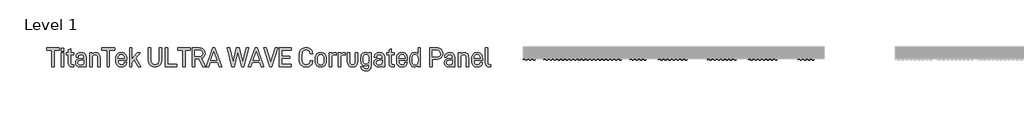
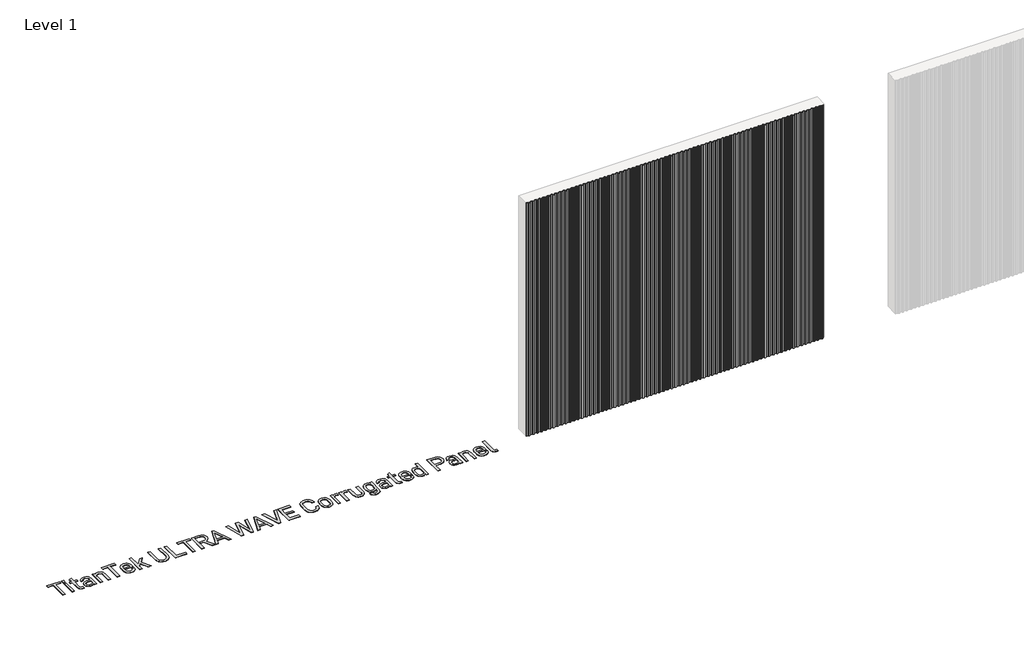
# One storey, part 29 of 33: 2 proxies.
"""IFC4 building model written with IfcOpenShell, lengths in millimetres."""

from ifc_helpers import new_model, si_unit, origin, origin_with_axes, place, context, project, spatial, polyline, outline, extrude, transform, mapped, element, save
from components import titantek_ultra_wave_corrugated_panel_aluminum_slate_gray_bfc90fa9, titantek_ultra_wave_corrugated_panel_aluminum_slate_gray_77245a93, titantek_ultra_wave_corrugated_panel_aluminum_slate_gray_d8f012a7

model = new_model("IFC4")

# Units and contexts
model_context = context("Model", 3, world=origin())
ifc_project = project(units=[si_unit("LENGTHUNIT", "METRE", prefix="MILLI")], contexts=[model_context])

# Site, building, storey
site = spatial("IfcSite", under=ifc_project)
building = spatial("IfcBuilding", under=site)
storey = spatial("IfcBuildingStorey", under=building, Name="Level 1", Elevation=0.0)

# Proxies
placement = place(None, origin())
element("IfcBuildingElementProxy", 1, Name="600mm Arial 2", ObjectType="600mm Arial 2", at=placement, inside=storey, context=model_context, shape_type="SweptSolid", body=[
    extrude(outline(polyline([(-9914.9924556, 112220.4128343), (-9914.9924556, 111952.9873502), (-9954.4439015, 111952.9873502), (-9954.4439015, 112220.4128343), (-10038.8787304, 112220.4128343), (-10038.8787304, 112257.3166776), (-9830.5576267, 112257.3166776), (-9830.5576267, 112220.4128343), (-9914.9924556, 112220.4128343)])), origin_with_axes(), (0.0, 0.0, 1.0), 5.0),
    extrude(outline(polyline([(-9763.1553408, 112253.0221475), (-9763.1553408, 112205.8551051), (-9802.6067867, 112205.8551051), (-9802.6067867, 112253.0221475), (-9763.1553408, 112253.0221475)])), origin_with_axes(), (0.0, 0.0, 1.0), 5.0),
    extrude(outline(polyline([(-9764.0288046, 112178.8505176), (-9764.0288046, 111952.9873502), (-9801.733323, 111952.9873502), (-9801.733323, 112178.8505176), (-9764.0288046, 112178.8505176)])), origin_with_axes(), (0.0, 0.0, 1.0), 5.0),
    extrude(outline(polyline([(-9648.294858, 112012.601251), (-9646.8208879, 112001.5191797), (-9642.3989777, 111993.6034145), (-9635.0291273, 111988.8539554), (-9624.7113368, 111987.2708023), (-9603.2386864, 111987.2708023), (-9603.2386864, 111952.9873502), (-9629.3698101, 111952.9873502), (-9653.1535001, 111956.9543314), (-9671.3688587, 111968.855275), (-9682.6692959, 111987.3981825), (-9686.4361083, 112011.2910554), (-9686.4361083, 112147.1146681), (-9720.2828285, 112147.1146681), (-9720.2828285, 112178.8505176), (-9686.4361083, 112178.8505176), (-9686.4361083, 112226.8910237), (-9648.294858, 112244.8698192), (-9648.294858, 112178.8505176), (-9599.3808881, 112178.8505176), (-9599.3808881, 112147.1146681), (-9648.294858, 112147.1146681), (-9648.294858, 112012.601251)])), origin_with_axes(), (0.0, 0.0, 1.0), 5.0),
    extrude(outline(polyline([(-9422.8684225, 112162.1091291), (-9413.2830677, 112151.3409589), (-9406.4363858, 112138.2526505), (-9400.9590402, 112105.1156196), (-9400.9590402, 111952.9873502), (-9438.2996154, 111952.9873502), (-9438.2996154, 111969.2920069), (-9456.7151427, 111956.8451485), (-9473.7476858, 111952.0410978), (-9493.9829293, 111950.4397476), (-9526.0281305, 111954.7160806), (-9550.1029751, 111967.5450794), (-9565.2248162, 111989.3270816), (-9570.2654299, 112018.5699199), (-9565.1338304, 112046.2114081), (-9549.7390318, 112067.4111012), (-9525.063681, 112080.6222403), (-9493.1094655, 112085.0259534), (-9438.7363472, 112085.0259534), (-9438.7363472, 112105.5523515), (-9441.6296959, 112124.441005), (-9450.3097419, 112138.1616647), (-9464.2305704, 112146.1866129), (-9483.7197302, 112148.8615956), (-9502.2262434, 112146.6051476), (-9515.819523, 112139.8358036), (-9524.1720201, 112129.4816187), (-9526.9561857, 112115.4516073), (-9526.9561857, 112109.8468816), (-9563.8600291, 112109.8468816), (-9563.8600291, 112116.2522824), (-9558.4008807, 112143.2932642), (-9542.0234354, 112164.2927885), (-9516.8203668, 112177.4493362), (-9484.1564621, 112181.8348521), (-9448.6719974, 112176.9034213), (-9434.5600987, 112170.7391329), (-9422.8684225, 112162.1091291)]), holes=[polyline([(-9450.6736851, 111994.5496669), (-9441.7206817, 112009.4531421), (-9438.7363472, 112031.0167784), (-9438.7363472, 112054.9642428), (-9488.8149354, 112054.9642428), (-9507.9538, 112052.7168933), (-9521.6244175, 112045.974845), (-9529.826788, 112034.7380979), (-9532.5609115, 112019.0066518), (-9529.8540837, 112003.0522906), (-9521.7336004, 111991.6563182), (-9508.1994616, 111984.8187348), (-9489.2516673, 111982.5395404), (-9466.104878, 111985.542072), (-9450.6736851, 111994.5496669)])]), origin_with_axes(), (0.0, 0.0, 1.0), 5.0),
    extrude(outline(polyline([(-9306.6977441, 112178.8505176), (-9306.6977441, 112160.4349903), (-9288.2822167, 112173.6825238), (-9271.1222935, 112179.4692211), (-9252.2518372, 112181.3981202), (-9219.9154813, 112175.9389718), (-9206.7907787, 112169.1150363), (-9195.6950595, 112159.5615265), (-9187.0650557, 112147.9790333), (-9180.9007673, 112134.1946835), (-9175.9693365, 112100.0204144), (-9175.9693365, 111952.9873502), (-9213.673855, 111952.9873502), (-9213.673855, 112095.7258843), (-9216.6763866, 112118.1083928), (-9225.6839815, 112133.8671346), (-9240.3781893, 112143.4752358), (-9259.567096, 112146.6779363), (-9278.7378056, 112143.4752358), (-9293.3774219, 112133.8671346), (-9303.0401146, 112117.453295), (-9306.2610122, 112095.7258843), (-9306.2610122, 111952.9873502), (-9343.9655306, 111952.9873502), (-9343.9655306, 112178.8505176), (-9306.6977441, 112178.8505176)])), origin_with_axes(), (0.0, 0.0, 1.0), 5.0),
    extrude(outline(polyline([(-9025.2240514, 112220.4128343), (-9025.2240514, 111952.9873502), (-9064.6754974, 111952.9873502), (-9064.6754974, 112220.4128343), (-9149.1103263, 112220.4128343), (-9149.1103263, 112257.3166776), (-8940.7892225, 112257.3166776), (-8940.7892225, 112220.4128343), (-9025.2240514, 112220.4128343)])), origin_with_axes(), (0.0, 0.0, 1.0), 5.0),
    extrude(outline(polyline([(-8884.5235994, 112047.2486463), (-8881.1025331, 112017.8329349), (-8870.8393341, 111998.8805913), (-8854.3527058, 111988.5900965), (-8832.2613519, 111985.1599316), (-8812.990558, 111987.7257314), (-8798.8513635, 111995.4231306), (-8790.1713175, 112007.1966941), (-8787.2779689, 112022.86445), (-8787.2779689, 112028.3963871), (-8750.3741256, 112028.3963871), (-8750.3741256, 112021.9909863), (-8756.0516399, 111992.8391337), (-8763.1485329, 111980.528754), (-8773.084183, 111969.7287387), (-8799.7976159, 111955.2619954), (-8834.3722226, 111950.4397476), (-8853.3222916, 111951.9387388), (-8870.2843206, 111956.4357123), (-8885.2583098, 111963.9306682), (-8898.2442591, 111974.4236064), (-8908.7371973, 111988.0237099), (-8916.2321532, 112004.8401617), (-8920.7291267, 112024.8729617), (-8922.2281179, 112048.1221101), (-8922.2281179, 112085.8266285), (-8920.7314014, 112108.5321367), (-8916.2412518, 112128.1714231), (-8908.7576691, 112144.7444879), (-8898.2806535, 112158.2513309), (-8885.4971476, 112168.5691214), (-8870.7301511, 112175.9389718), (-8853.979664, 112180.360882), (-8835.2456864, 112181.8348521), (-8816.8438069, 112180.360882), (-8800.2161506, 112175.9389718), (-8785.3627176, 112168.5691214), (-8772.2835079, 112158.2513309), (-8761.9657174, 112144.9082623), (-8754.595867, 112128.389789), (-8750.1739568, 112108.6959111), (-8748.6999867, 112085.8266285), (-8748.6999867, 112055.8377065), (-8884.5235994, 112055.8377065), (-8884.5235994, 112047.2486463)]), holes=[polyline([(-8871.2760659, 112133.4304027), (-8881.2117161, 112115.30603), (-8884.5235994, 112086.7000923), (-8786.4045051, 112086.2633604), (-8786.4045051, 112089.6844267), (-8789.6254027, 112116.9255774), (-8799.2880954, 112134.3038665), (-8814.9012599, 112143.5844188), (-8835.2456864, 112146.6779363), (-8855.60831, 112143.3660529), (-8871.2760659, 112133.4304027)])]), origin_with_axes(), (0.0, 0.0, 1.0), 5.0),
    extrude(outline(polyline([(-8663.391694, 112020.3168474), (-8663.391694, 111952.9873502), (-8701.0962125, 111952.9873502), (-8701.0962125, 112257.3166776), (-8663.391694, 112257.3166776), (-8663.391694, 112070.8321675), (-8575.0990669, 112178.8505176), (-8528.3687564, 112178.8505176), (-8602.5403863, 112091.8680861), (-8517.6688255, 111952.9873502), (-8563.5256722, 111952.9873502), (-8627.7980463, 112062.6798392), (-8663.391694, 112020.3168474)])), origin_with_axes(), (0.0, 0.0, 1.0), 5.0),
    extrude(outline(polyline([(-8344.2862716, 111963.2505493), (-8365.6133448, 111978.6999393), (-8382.4275219, 112000.1543926), (-8392.7453124, 112025.5576299), (-8396.1845759, 112053.7268358), (-8396.1845759, 112257.3166776), (-8355.8596662, 112257.3166776), (-8355.8596662, 112056.2744384), (-8351.3649674, 112027.4683319), (-8337.8808708, 112005.2495978), (-8317.3362756, 111991.4379523), (-8289.9131533, 111986.8340705), (-8262.8721715, 111991.4379523), (-8241.8726472, 112005.2495978), (-8228.3885506, 112027.6503035), (-8223.8938517, 112056.2744384), (-8223.8938517, 112257.3166776), (-8184.0056739, 112257.3166776), (-8184.0056739, 112053.7268358), (-8187.4449374, 112025.230081), (-8197.7627279, 111999.7176607), (-8214.0309902, 111978.8091223), (-8235.4672464, 111963.2505493), (-8261.2617227, 111953.642448), (-8289.876759, 111950.4397476), (-8318.4917953, 111953.642448), (-8344.2862716, 111963.2505493)])), origin_with_axes(), (0.0, 0.0, 1.0), 5.0),
    extrude(outline(polyline([(-8086.1049456, 112257.3166776), (-8086.1049456, 111989.8184049), (-7938.7079382, 111989.8184049), (-7938.7079382, 111952.9873502), (-8125.9931234, 111952.9873502), (-8125.9931234, 112257.3166776), (-8086.1049456, 112257.3166776)])), origin_with_axes(), (0.0, 0.0, 1.0), 5.0),
    extrude(outline(polyline([(-7804.7040416, 112220.4128343), (-7804.7040416, 111952.9873502), (-7844.1554875, 111952.9873502), (-7844.1554875, 112220.4128343), (-7928.5903164, 112220.4128343), (-7928.5903164, 112257.3166776), (-7720.2692126, 112257.3166776), (-7720.2692126, 112220.4128343), (-7804.7040416, 112220.4128343)])), origin_with_axes(), (0.0, 0.0, 1.0), 5.0),
    extrude(outline(polyline([(-7652.8669268, 112082.842294), (-7652.8669268, 111952.9873502), (-7692.7551046, 111952.9873502), (-7692.7551046, 112257.3166776), (-7578.7680855, 112257.3166776), (-7540.2810892, 112251.6391632), (-7524.3267279, 112244.5422703), (-7510.5651246, 112234.6066202), (-7499.5148983, 112221.8777058), (-7491.6218796, 112206.8377519), (-7486.8860683, 112189.4867585), (-7485.3074645, 112169.8247256), (-7489.6929804, 112139.8540007), (-7502.8495281, 112115.0148754), (-7521.9383505, 112097.9641352), (-7546.5955042, 112087.1368241), (-7475.9177293, 111952.9873502), (-7521.774576, 111952.9873502), (-7588.5945527, 112082.842294), (-7652.8669268, 112082.842294)]), holes=[polyline([(-7581.3156881, 112118.4359417), (-7556.9860833, 112121.7478251), (-7539.7533715, 112131.6834753), (-7528.8350746, 112147.5695972), (-7525.1956423, 112169.4607823), (-7528.7258917, 112191.6158263), (-7539.3166396, 112207.5656383), (-7556.8769004, 112217.2010353), (-7581.3156881, 112220.4128343), (-7652.8669268, 112220.4128343), (-7652.8669268, 112118.4359417), (-7581.3156881, 112118.4359417)])]), origin_with_axes(), (0.0, 0.0, 1.0), 5.0),
    extrude(outline(polyline([(-7402.6923518, 112024.1746457), (-7427.5132799, 111952.9873502), (-7469.5123284, 111952.9873502), (-7358.9463757, 112257.3166776), (-7326.846583, 112257.3166776), (-7216.2078417, 111952.9873502), (-7258.2068902, 111952.9873502), (-7283.100607, 112024.1746457), (-7402.6923518, 112024.1746457)]), holes=[polyline([(-7343.078451, 112196.4653699), (-7390.6822252, 112059.2587729), (-7295.1107335, 112059.2587729), (-7343.078451, 112196.4653699)])]), origin_with_axes(), (0.0, 0.0, 1.0), 5.0),
    extrude(outline(polyline([(-6353.8807569, 112257.3166776), (-6312.3184403, 112257.3166776), (-6411.7477302, 111952.9873502), (-6443.4835797, 111952.9873502), (-6542.4761377, 112257.3166776), (-6500.9138211, 112257.3166776), (-6427.1789231, 112022.86445), (-6353.8807569, 112257.3166776)])), origin_with_axes(), (0.0, 0.0, 1.0), 5.0),
    extrude(outline(polyline([(-6722.555247, 112024.1746457), (-6747.3761752, 111952.9873502), (-6789.3752237, 111952.9873502), (-6678.809271, 112257.3166776), (-6646.7094783, 112257.3166776), (-6536.0707369, 111952.9873502), (-6578.0697854, 111952.9873502), (-6602.9635022, 112024.1746457), (-6722.555247, 112024.1746457)]), holes=[polyline([(-6662.9413462, 112196.4653699), (-6710.5451205, 112059.2587729), (-6614.9736288, 112059.2587729), (-6662.9413462, 112196.4653699)])]), origin_with_axes(), (0.0, 0.0, 1.0), 5.0),
    extrude(outline(polyline([(-6820.8927073, 112257.3166776), (-6782.7514569, 112257.3166776), (-6859.0339576, 111952.9873502), (-6893.7541415, 111952.9873502), (-6955.9156449, 112196.028638), (-7016.3302208, 111952.9873502), (-7051.0504047, 111952.9873502), (-7129.0070442, 112257.3166776), (-7089.6283869, 112257.3166776), (-7032.9988206, 112026.7222483), (-6978.6257023, 112257.3166776), (-6931.8953918, 112257.3166776), (-6875.3386142, 112026.7222483), (-6820.8927073, 112257.3166776)])), origin_with_axes(), (0.0, 0.0, 1.0), 5.0),
    extrude(outline(polyline([(-6246.0079841, 112126.1515382), (-6119.1373748, 112126.1515382), (-6119.1373748, 112089.3204835), (-6246.0079841, 112089.3204835), (-6246.0079841, 111989.8184049), (-6097.7375129, 111989.8184049), (-6097.7375129, 111952.9873502), (-6285.8961619, 111952.9873502), (-6285.8961619, 112257.3166776), (-6097.7375129, 112257.3166776), (-6097.7375129, 112220.4128343), (-6246.0079841, 112220.4128343), (-6246.0079841, 112126.1515382)])), origin_with_axes(), (0.0, 0.0, 1.0), 5.0),
    extrude(outline(polyline([(-5936.2195083, 111977.881067), (-5949.1485915, 111994.3676953), (-5958.3836509, 112014.7121217), (-5963.9246865, 112038.9143464), (-5965.7716984, 112066.9743693), (-5965.7716984, 112143.6936018), (-5963.9246865, 112171.9219484), (-5958.3836509, 112196.1924124), (-5949.1485915, 112216.5049939), (-5936.2195083, 112232.8596927), (-5920.2105556, 112245.2474103), (-5901.7358874, 112254.09578), (-5880.7955039, 112259.4048019), (-5857.3894051, 112261.1744758), (-5828.0191866, 112258.2811272), (-5802.5067663, 112249.6010812), (-5781.3980591, 112235.4436896), (-5765.2389797, 112216.1183042), (-5755.576287, 112192.7713461), (-5752.3553894, 112166.4036592), (-5752.3553894, 112160.8717222), (-5792.2435672, 112160.8717222), (-5792.2435672, 112166.4036592), (-5796.5199002, 112190.2965321), (-5809.348899, 112208.8394396), (-5830.1664516, 112220.4128343), (-5857.3894051, 112224.2706325), (-5886.8415108, 112219.5575677), (-5908.3778513, 112205.4183733), (-5916.0684267, 112194.4136399), (-5921.5616948, 112180.251699), (-5925.9563093, 112142.4561948), (-5925.9563093, 112065.3002304), (-5921.643582, 112030.9712854), (-5908.7054003, 112006.4506105), (-5899.0017639, 111997.8683742), (-5887.141764, 111991.7382055), (-5856.9526732, 111986.8340705), (-5829.6205368, 111990.6918687), (-5809.348899, 112002.2652633), (-5796.5199002, 112020.4806219), (-5792.2435672, 112044.2643119), (-5792.2435672, 112050.3057694), (-5753.2288532, 112050.3057694), (-5753.2288532, 112044.2643119), (-5754.9939779, 112023.4103649), (-5760.2893518, 112004.9584432), (-5769.1149751, 111988.9085469), (-5781.4708477, 111975.2606758), (-5796.8338012, 111964.0193793), (-5814.6078786, 111955.9898819), (-5834.7930799, 111951.1721834), (-5857.3894051, 111949.5662839), (-5880.7955039, 111951.3359578), (-5901.7358874, 111956.6449797), (-5920.2105556, 111965.4933494), (-5936.2195083, 111977.881067)])), origin_with_axes(), (0.0, 0.0, 1.0), 5.0),
    extrude(outline(polyline([(-5683.9340626, 111972.7130732), (-5694.4110782, 111985.6740014), (-5701.8946609, 112001.8467286), (-5706.3848104, 112021.2312548), (-5707.881527, 112043.82758), (-5707.881527, 112088.4470198), (-5706.3825358, 112110.8522747), (-5701.8855623, 112130.1003222), (-5694.3906064, 112146.1911622), (-5683.8976682, 112159.1247947), (-5670.9117189, 112169.0604448), (-5655.9377297, 112176.1573377), (-5620.0256317, 112181.8348521), (-5585.1416733, 112176.1573377), (-5570.4156204, 112169.0604448), (-5557.5001851, 112159.1247947), (-5546.9913244, 112146.3549366), (-5539.4849953, 112130.3186881), (-5534.9811979, 112111.0160492), (-5533.479932, 112088.4470198), (-5533.479932, 112043.82758), (-5534.9811979, 112021.2585505), (-5539.4849953, 112001.9559116), (-5546.9913244, 111985.9196631), (-5557.5001851, 111973.1498051), (-5570.4156204, 111963.2141549), (-5585.1416733, 111956.117262), (-5620.0256317, 111950.4397476), (-5656.1651942, 111956.008079), (-5671.0959652, 111962.9684933), (-5683.9340626, 111972.7130732)]), holes=[polyline([(-5584.5047726, 111998.4074651), (-5574.514531, 112016.6410208), (-5571.1844505, 112045.5745075), (-5571.1844505, 112086.7000923), (-5574.514531, 112115.30603), (-5584.5047726, 112133.4304027), (-5599.7903882, 112143.3660529), (-5620.0256317, 112146.6779363), (-5641.0433531, 112143.3660529), (-5656.929475, 112133.4304027), (-5666.8651252, 112115.30603), (-5670.1770085, 112086.7000923), (-5670.1770085, 112045.5745075), (-5666.8651252, 112016.6410208), (-5656.929475, 111998.4074651), (-5641.0433531, 111988.471815), (-5620.0256317, 111985.1599316), (-5599.7903882, 111988.471815), (-5584.5047726, 111998.4074651)])]), origin_with_axes(), (0.0, 0.0, 1.0), 5.0),
    extrude(outline(polyline([(-5392.1243822, 112181.8348521), (-5371.9619274, 112179.7239814), (-5371.9619274, 112140.7092673), (-5398.5297831, 112146.313993), (-5416.8634232, 112142.7746451), (-5431.5394338, 112132.1566015), (-5441.1748308, 112115.7518604), (-5444.3866298, 112094.8524206), (-5444.3866298, 111952.9873502), (-5482.0911482, 111952.9873502), (-5482.0911482, 112178.8505176), (-5444.8233617, 112178.8505176), (-5444.8233617, 112159.1247947), (-5427.2812981, 112173.3185806), (-5411.1768102, 112179.7057842), (-5392.1243822, 112181.8348521)])), origin_with_axes(), (0.0, 0.0, 1.0), 5.0),
    extrude(outline(polyline([(-5247.7117093, 112181.8348521), (-5227.5492545, 112179.7239814), (-5227.5492545, 112140.7092673), (-5254.1171101, 112146.313993), (-5272.4507502, 112142.7746451), (-5287.1267609, 112132.1566015), (-5296.7621579, 112115.7518604), (-5299.9739569, 112094.8524206), (-5299.9739569, 111952.9873502), (-5337.6784753, 111952.9873502), (-5337.6784753, 112178.8505176), (-5300.4106887, 112178.8505176), (-5300.4106887, 112159.1247947), (-5282.8686251, 112173.3185806), (-5266.7641373, 112179.7057842), (-5247.7117093, 112181.8348521)])), origin_with_axes(), (0.0, 0.0, 1.0), 5.0),
    extrude(outline(polyline([(-5172.3026724, 111973.1498051), (-5181.4740418, 111985.4920298), (-5188.0250199, 112000.2453784), (-5193.2658024, 112036.9854473), (-5193.2658024, 112178.8505176), (-5155.5612839, 112178.8505176), (-5155.5612839, 112040.8432455), (-5152.8863012, 112015.6765713), (-5144.861353, 111998.4074651), (-5130.8404402, 111988.471815), (-5109.3040997, 111985.1599316), (-5087.7677591, 111988.362632), (-5073.7468463, 111997.9707332), (-5065.6673066, 112015.3490224), (-5062.9741267, 112040.8432455), (-5062.9741267, 112178.8505176), (-5025.2696083, 112178.8505176), (-5025.2696083, 112036.9854473), (-5030.5285879, 112000.2453784), (-5037.1023125, 111985.4920298), (-5046.3055269, 111973.1498051), (-5058.2929069, 111963.2141549), (-5072.8551854, 111956.117262), (-5089.9923621, 111951.8591262), (-5109.7044372, 111950.4397476), (-5129.0389212, 111951.8591262), (-5145.9167884, 111956.117262), (-5160.3380388, 111963.2141549), (-5172.3026724, 111973.1498051)])), origin_with_axes(), (0.0, 0.0, 1.0), 5.0),
    extrude(outline(polyline([(-4844.5354012, 112180.5974451), (-4806.3941509, 112180.5974451), (-4806.3941509, 111974.4600007), (-4811.9624823, 111937.3559886), (-4818.9228965, 111922.2023024), (-4828.6674764, 111909.3141629), (-4841.0961377, 111898.8053021), (-4855.672064, 111891.2989731), (-4872.3952553, 111886.7951756), (-4891.2657117, 111885.2939098), (-4923.2017299, 111889.370074), (-4948.6959531, 111901.5985664), (-4966.3653968, 111922.9074424), (-4973.0801494, 111950.8764795), (-4935.3756309, 111950.8764795), (-4931.8453816, 111937.6653403), (-4922.1280974, 111927.2929583), (-4908.8441696, 111921.1787121), (-4891.2657117, 111919.14063), (-4870.8212008, 111922.4343162), (-4856.2179788, 111932.3153749), (-4847.4560456, 111948.783806), (-4844.5354012, 111971.8396095), (-4844.5354012, 111988.580998), (-4861.7135215, 111974.8239439), (-4878.9280362, 111968.4367403), (-4898.9813081, 111966.3076724), (-4929.8254967, 111972.0943697), (-4942.9956923, 111979.3277414), (-4954.664622, 111989.4544617), (-4964.2181318, 112002.3880942), (-4971.0420673, 112018.4789341), (-4976.5012157, 112060.1322366), (-4976.5012157, 112090.1211586), (-4971.0420673, 112131.7198696), (-4964.2181318, 112147.6878787), (-4954.664622, 112160.4349903), (-4942.9683965, 112170.3706404), (-4929.7163137, 112177.4675334), (-4898.5445762, 112183.1450477), (-4882.4764827, 112181.6710776), (-4868.1189224, 112177.2491674), (-4855.4718952, 112169.879317), (-4844.5354012, 112159.5615265), (-4844.5354012, 112180.5974451)]), holes=[polyline([(-4857.4189915, 112017.6964562), (-4847.7562987, 112037.2220104), (-4844.5354012, 112062.315896), (-4844.5354012, 112085.8266285), (-4847.6471158, 112111.7757807), (-4856.9822596, 112132.1202071), (-4872.1586922, 112144.3486996), (-4892.9398505, 112148.4248637), (-4912.8111508, 112144.6489528), (-4927.0049367, 112133.3212198), (-4935.5212082, 112114.4416648), (-4938.3599654, 112088.0102879), (-4938.3599654, 112061.8791641), (-4935.6303912, 112035.4159421), (-4927.4416685, 112016.5136407), (-4913.7937975, 112005.1722599), (-4894.686778, 112001.3917996), (-4872.922973, 112005.4679637), (-4857.4189915, 112017.6964562)])]), origin_with_axes(), (0.0, 0.0, 1.0), 5.0),
    extrude(outline(polyline([(-4615.3239561, 112162.1091291), (-4605.7386013, 112151.3409589), (-4598.8919193, 112138.2526505), (-4593.4145738, 112105.1156196), (-4593.4145738, 111952.9873502), (-4630.755149, 111952.9873502), (-4630.755149, 111969.2920069), (-4649.1706763, 111956.8451485), (-4666.2032194, 111952.0410978), (-4686.4384629, 111950.4397476), (-4718.4836641, 111954.7160806), (-4742.5585087, 111967.5450794), (-4757.6803498, 111989.3270816), (-4762.7209635, 112018.5699199), (-4757.589364, 112046.2114081), (-4742.1945654, 112067.4111012), (-4717.5192146, 112080.6222403), (-4685.5649991, 112085.0259534), (-4631.1918808, 112085.0259534), (-4631.1918808, 112105.5523515), (-4634.0852295, 112124.441005), (-4642.7652755, 112138.1616647), (-4656.686104, 112146.1866129), (-4676.1752638, 112148.8615956), (-4694.681777, 112146.6051476), (-4708.2750566, 112139.8358036), (-4716.6275537, 112129.4816187), (-4719.4117193, 112115.4516073), (-4719.4117193, 112109.8468816), (-4756.3155627, 112109.8468816), (-4756.3155627, 112116.2522824), (-4750.8564143, 112143.2932642), (-4734.478969, 112164.2927885), (-4709.2759004, 112177.4493362), (-4676.6119957, 112181.8348521), (-4641.127531, 112176.9034213), (-4627.0156323, 112170.7391329), (-4615.3239561, 112162.1091291)]), holes=[polyline([(-4643.1292187, 111994.5496669), (-4634.1762153, 112009.4531421), (-4631.1918808, 112031.0167784), (-4631.1918808, 112054.9642428), (-4681.270469, 112054.9642428), (-4700.4093335, 112052.7168933), (-4714.0799511, 112045.974845), (-4722.2823216, 112034.7380979), (-4725.0164451, 112019.0066518), (-4722.3096173, 112003.0522906), (-4714.189134, 111991.6563182), (-4700.6549952, 111984.8187348), (-4681.7072009, 111982.5395404), (-4658.5604116, 111985.542072), (-4643.1292187, 111994.5496669)])]), origin_with_axes(), (0.0, 0.0, 1.0), 5.0),
    extrude(outline(polyline([(-4482.047946, 112012.601251), (-4480.5739759, 112001.5191797), (-4476.1520657, 111993.6034145), (-4468.7822153, 111988.8539554), (-4458.4644248, 111987.2708023), (-4436.9917743, 111987.2708023), (-4436.9917743, 111952.9873502), (-4463.1228981, 111952.9873502), (-4486.9065881, 111956.9543314), (-4505.1219466, 111968.855275), (-4516.4223839, 111987.3981825), (-4520.1891963, 112011.2910554), (-4520.1891963, 112147.1146681), (-4554.0359165, 112147.1146681), (-4554.0359165, 112178.8505176), (-4520.1891963, 112178.8505176), (-4520.1891963, 112226.8910237), (-4482.047946, 112244.8698192), (-4482.047946, 112178.8505176), (-4433.1339761, 112178.8505176), (-4433.1339761, 112147.1146681), (-4482.047946, 112147.1146681), (-4482.047946, 112012.601251)])), origin_with_axes(), (0.0, 0.0, 1.0), 5.0),
    extrude(outline(polyline([(-4361.1460056, 112047.2486463), (-4357.7249392, 112017.8329349), (-4347.4617402, 111998.8805913), (-4330.975112, 111988.5900965), (-4308.883758, 111985.1599316), (-4289.6129641, 111987.7257314), (-4275.4737697, 111995.4231306), (-4266.7937237, 112007.1966941), (-4263.900375, 112022.86445), (-4263.900375, 112028.3963871), (-4226.9965317, 112028.3963871), (-4226.9965317, 112021.9909863), (-4232.674046, 111992.8391337), (-4239.770939, 111980.528754), (-4249.7065891, 111969.7287387), (-4276.4200221, 111955.2619954), (-4310.9946287, 111950.4397476), (-4329.9446977, 111951.9387388), (-4346.9067268, 111956.4357123), (-4361.880716, 111963.9306682), (-4374.8666653, 111974.4236064), (-4385.3596035, 111988.0237099), (-4392.8545593, 112004.8401617), (-4397.3515328, 112024.8729617), (-4398.850524, 112048.1221101), (-4398.850524, 112085.8266285), (-4397.3538075, 112108.5321367), (-4392.8636579, 112128.1714231), (-4385.3800753, 112144.7444879), (-4374.9030596, 112158.2513309), (-4362.1195537, 112168.5691214), (-4347.3525572, 112175.9389718), (-4330.6020701, 112180.360882), (-4311.8680925, 112181.8348521), (-4293.466213, 112180.360882), (-4276.8385568, 112175.9389718), (-4261.9851238, 112168.5691214), (-4248.905914, 112158.2513309), (-4238.5881235, 112144.9082623), (-4231.2182731, 112128.389789), (-4226.7963629, 112108.6959111), (-4225.3223928, 112085.8266285), (-4225.3223928, 112055.8377065), (-4361.1460056, 112055.8377065), (-4361.1460056, 112047.2486463)]), holes=[polyline([(-4347.8984721, 112133.4304027), (-4357.8341222, 112115.30603), (-4361.1460056, 112086.7000923), (-4263.0269113, 112086.2633604), (-4263.0269113, 112089.6844267), (-4266.2478088, 112116.9255774), (-4275.9105015, 112134.3038665), (-4291.523666, 112143.5844188), (-4311.8680925, 112146.6779363), (-4332.2307161, 112143.3660529), (-4347.8984721, 112133.4304027)])]), origin_with_axes(), (0.0, 0.0, 1.0), 5.0),
    extrude(outline(polyline([(-4052.5949368, 112257.3166776), (-4014.4536864, 112257.3166776), (-4014.4536864, 111952.9873502), (-4052.5949368, 111952.9873502), (-4052.5949368, 111972.2763413), (-4069.7730571, 111959.0288078), (-4086.3688683, 111952.5870127), (-4107.0408437, 111950.4397476), (-4137.8850323, 111956.226445), (-4151.0552278, 111963.4598166), (-4162.7241576, 111973.586537), (-4172.2776673, 111986.3290992), (-4179.1016029, 112002.2834605), (-4184.5607513, 112043.82758), (-4184.5607513, 112088.4470198), (-4179.1016029, 112129.9911392), (-4172.2776673, 112145.9455005), (-4162.7241576, 112158.6880628), (-4151.0279321, 112168.8147831), (-4137.7758493, 112176.0481548), (-4106.6041118, 112181.8348521), (-4090.5360183, 112180.360882), (-4076.1784579, 112175.9389718), (-4063.5314308, 112168.5691214), (-4052.5949368, 112158.2513309), (-4052.5949368, 112257.3166776)]), holes=[polyline([(-4065.478527, 112001.3917996), (-4055.8158343, 112020.9173538), (-4052.5949368, 112046.0112394), (-4052.5949368, 112084.1524897), (-4055.7066514, 112110.0652475), (-4065.0417952, 112130.4460683), (-4080.2182278, 112142.6199693), (-4100.9993861, 112146.6779363), (-4120.8706864, 112142.929321), (-4135.0644722, 112131.6834753), (-4143.5807438, 112112.940399), (-4146.419501, 112086.7000923), (-4146.419501, 112045.5745075), (-4143.6899268, 112019.1431305), (-4135.5012041, 112000.2635756), (-4121.8533331, 111988.9358426), (-4102.7463136, 111985.1599316), (-4080.9825085, 111989.2178986), (-4065.478527, 112001.3917996)])]), origin_with_axes(), (0.0, 0.0, 1.0), 5.0),
    extrude(outline(polyline([(-3681.7367873, 112233.2964245), (-3670.3044206, 112219.8396237), (-3662.1384444, 112203.926206), (-3657.2388587, 112185.5561716), (-3655.6056635, 112164.7295204), (-3657.2661545, 112145.044741), (-3662.2476274, 112127.5527196), (-3670.5500823, 112112.2534562), (-3682.1735192, 112099.1469507), (-3696.2308263, 112088.6380899), (-3712.708356, 112081.1317609), (-3731.6061081, 112076.6279634), (-3752.9240827, 112075.1266976), (-3823.6018576, 112075.1266976), (-3823.6018576, 111952.9873502), (-3863.4900354, 111952.9873502), (-3863.4900354, 112257.3166776), (-3752.9240827, 112257.3166776), (-3731.7425868, 112255.8154118), (-3712.817539, 112251.3116143), (-3696.1489391, 112243.8052853), (-3681.7367873, 112233.2964245)]), holes=[polyline([(-3710.4883023, 112125.2780744), (-3699.2424566, 112141.5827311), (-3695.4938413, 112164.7295204), (-3699.3516395, 112189.3502798), (-3710.9250342, 112206.7285689), (-3729.9956593, 112216.9917679), (-3755.4716853, 112220.4128343), (-3823.6018576, 112220.4128343), (-3823.6018576, 112112.0305409), (-3755.4716853, 112112.0305409), (-3729.2313786, 112115.3424243), (-3710.4883023, 112125.2780744)])]), origin_with_axes(), (0.0, 0.0, 1.0), 5.0),
    extrude(outline(polyline([(-3483.3149393, 112162.1091291), (-3473.7295845, 112151.3409589), (-3466.8829026, 112138.2526505), (-3461.405557, 112105.1156196), (-3461.405557, 111952.9873502), (-3498.7461322, 111952.9873502), (-3498.7461322, 111969.2920069), (-3517.1616595, 111956.8451485), (-3534.1942026, 111952.0410978), (-3554.4294461, 111950.4397476), (-3586.4746473, 111954.7160806), (-3610.5494919, 111967.5450794), (-3625.671333, 111989.3270816), (-3630.7119467, 112018.5699199), (-3625.5803472, 112046.2114081), (-3610.1855486, 112067.4111012), (-3585.5101978, 112080.6222403), (-3553.5559823, 112085.0259534), (-3499.182864, 112085.0259534), (-3499.182864, 112105.5523515), (-3502.0762127, 112124.441005), (-3510.7562587, 112138.1616647), (-3524.6770872, 112146.1866129), (-3544.166247, 112148.8615956), (-3562.6727602, 112146.6051476), (-3576.2660398, 112139.8358036), (-3584.6185369, 112129.4816187), (-3587.4027025, 112115.4516073), (-3587.4027025, 112109.8468816), (-3624.3065459, 112109.8468816), (-3624.3065459, 112116.2522824), (-3618.8473975, 112143.2932642), (-3602.4699522, 112164.2927885), (-3577.2668836, 112177.4493362), (-3544.6029789, 112181.8348521), (-3509.1185142, 112176.9034213), (-3495.0066155, 112170.7391329), (-3483.3149393, 112162.1091291)]), holes=[polyline([(-3511.1202019, 111994.5496669), (-3502.1671985, 112009.4531421), (-3499.182864, 112031.0167784), (-3499.182864, 112054.9642428), (-3549.2614522, 112054.9642428), (-3568.4003167, 112052.7168933), (-3582.0709343, 112045.974845), (-3590.2733048, 112034.7380979), (-3593.0074283, 112019.0066518), (-3590.3006005, 112003.0522906), (-3582.1801172, 111991.6563182), (-3568.6459784, 111984.8187348), (-3549.6981841, 111982.5395404), (-3526.5513948, 111985.542072), (-3511.1202019, 111994.5496669)])]), origin_with_axes(), (0.0, 0.0, 1.0), 5.0),
    extrude(outline(polyline([(-3367.1442609, 112178.8505176), (-3367.1442609, 112160.4349903), (-3348.7287335, 112173.6825238), (-3331.5688103, 112179.4692211), (-3312.698354, 112181.3981202), (-3280.3619981, 112175.9389718), (-3267.2372955, 112169.1150363), (-3256.1415763, 112159.5615265), (-3247.5115725, 112147.9790333), (-3241.3472841, 112134.1946835), (-3236.4158533, 112100.0204144), (-3236.4158533, 111952.9873502), (-3274.1203718, 111952.9873502), (-3274.1203718, 112095.7258843), (-3277.1229034, 112118.1083928), (-3286.1304983, 112133.8671346), (-3300.8247061, 112143.4752358), (-3320.0136128, 112146.6779363), (-3339.1843224, 112143.4752358), (-3353.8239387, 112133.8671346), (-3363.4866314, 112117.453295), (-3366.707529, 112095.7258843), (-3366.707529, 111952.9873502), (-3404.4120474, 111952.9873502), (-3404.4120474, 112178.8505176), (-3367.1442609, 112178.8505176)])), origin_with_axes(), (0.0, 0.0, 1.0), 5.0),
    extrude(outline(polyline([(-3149.9429423, 112047.2486463), (-3146.521876, 112017.8329349), (-3136.2586769, 111998.8805913), (-3119.7720487, 111988.5900965), (-3097.6806948, 111985.1599316), (-3078.4099008, 111987.7257314), (-3064.2707064, 111995.4231306), (-3055.5906604, 112007.1966941), (-3052.6973118, 112022.86445), (-3052.6973118, 112028.3963871), (-3015.7934684, 112028.3963871), (-3015.7934684, 112021.9909863), (-3021.4709828, 111992.8391337), (-3028.5678757, 111980.528754), (-3038.5035259, 111969.7287387), (-3065.2169588, 111955.2619954), (-3099.7915655, 111950.4397476), (-3118.7416344, 111951.9387388), (-3135.7036635, 111956.4357123), (-3150.6776527, 111963.9306682), (-3163.663602, 111974.4236064), (-3174.1565402, 111988.0237099), (-3181.6514961, 112004.8401617), (-3186.1484696, 112024.8729617), (-3187.6474608, 112048.1221101), (-3187.6474608, 112085.8266285), (-3186.1507442, 112108.5321367), (-3181.6605947, 112128.1714231), (-3174.177012, 112144.7444879), (-3163.6999964, 112158.2513309), (-3150.9164905, 112168.5691214), (-3136.149494, 112175.9389718), (-3119.3990069, 112180.360882), (-3100.6650292, 112181.8348521), (-3082.2631498, 112180.360882), (-3065.6354935, 112175.9389718), (-3050.7820605, 112168.5691214), (-3037.7028508, 112158.2513309), (-3027.3850603, 112144.9082623), (-3020.0152099, 112128.389789), (-3015.5932997, 112108.6959111), (-3014.1193296, 112085.8266285), (-3014.1193296, 112055.8377065), (-3149.9429423, 112055.8377065), (-3149.9429423, 112047.2486463)]), holes=[polyline([(-3136.6954088, 112133.4304027), (-3146.631059, 112115.30603), (-3149.9429423, 112086.7000923), (-3051.823848, 112086.2633604), (-3051.823848, 112089.6844267), (-3055.0447456, 112116.9255774), (-3064.7074383, 112134.3038665), (-3080.3206028, 112143.5844188), (-3100.6650292, 112146.6779363), (-3121.0276529, 112143.3660529), (-3136.6954088, 112133.4304027)])]), origin_with_axes(), (0.0, 0.0, 1.0), 5.0),
    extrude(outline(polyline([(-2951.5210943, 111968.855275), (-2962.7669401, 111988.362632), (-2966.5155553, 112014.2753899), (-2966.5155553, 112257.3166776), (-2928.8110369, 112257.3166776), (-2928.8110369, 112016.0223174), (-2927.4280526, 112002.6110094), (-2923.2790998, 111994.112935), (-2916.2913899, 111989.6364333), (-2905.6642476, 111988.1442661), (-2883.8276539, 111988.1442661), (-2883.8276539, 111952.9873502), (-2908.6485821, 111952.9873502), (-2933.5241017, 111956.9543314), (-2951.5210943, 111968.855275)])), origin_with_axes(), (0.0, 0.0, 1.0), 5.0),
])
titantek_ultra_wave_corrugated_panel_aluminum_slate_gray_shape = titantek_ultra_wave_corrugated_panel_aluminum_slate_gray_bfc90fa9(model_context)
titantek_ultra_wave_corrugated_panel_aluminum_slate_gray_2_shape = titantek_ultra_wave_corrugated_panel_aluminum_slate_gray_77245a93(model_context)
titantek_ultra_wave_corrugated_panel_aluminum_slate_gray_3_shape = titantek_ultra_wave_corrugated_panel_aluminum_slate_gray_d8f012a7(model_context)
element("IfcBuildingElementProxy", 2, Name="TitanTek ULTRA WAVE Corrugated Panel : Aluminum Slate Gray", ObjectType="TitanTek ULTRA WAVE Corrugated Panel : Aluminum Slate Gray", at=placement, inside=storey, context=model_context, shape_type="MappedRepresentation", body=[
    mapped(titantek_ultra_wave_corrugated_panel_aluminum_slate_gray_shape, transform((-2360.5897817, 112078.6095025, 0.0), x_axis=(1.0, 0.0, 0.0), y_axis=(0.0, 1.0, 0.0), z_axis=(0.0, 0.0, 1.0))),
    mapped(titantek_ultra_wave_corrugated_panel_aluminum_slate_gray_2_shape, transform((-2360.5897817, 112078.6095025, 0.0), x_axis=(1.0, 0.0, 0.0), y_axis=(0.0, 1.0, 0.0), z_axis=(0.0, 0.0, 1.0))),
    mapped(titantek_ultra_wave_corrugated_panel_aluminum_slate_gray_3_shape, transform((-2360.5897817, 112078.6095025, 0.0), x_axis=(1.0, 0.0, 0.0), y_axis=(0.0, 1.0, 0.0), z_axis=(0.0, 0.0, 1.0))),
])

save(model, "model.ifc")
